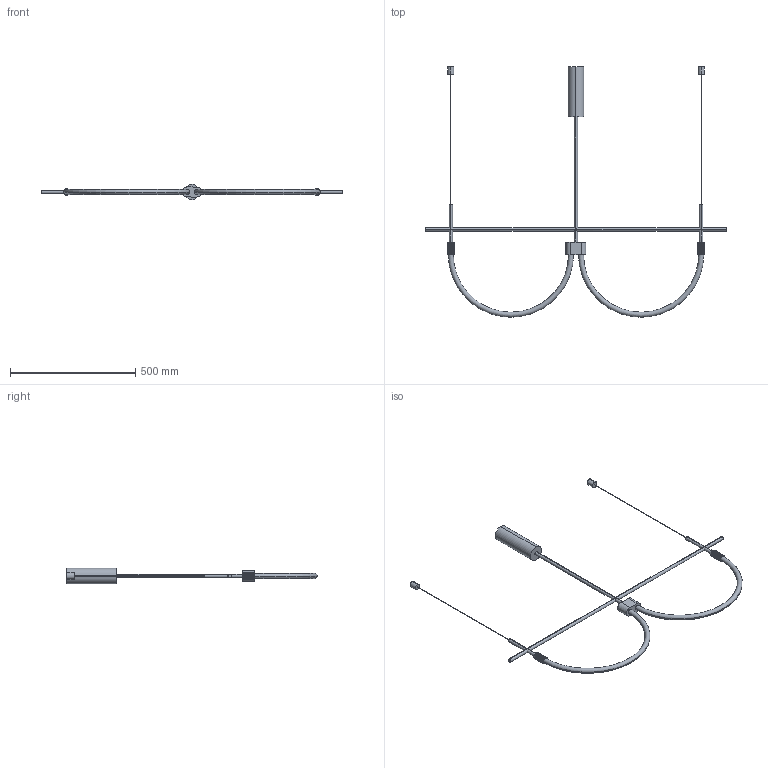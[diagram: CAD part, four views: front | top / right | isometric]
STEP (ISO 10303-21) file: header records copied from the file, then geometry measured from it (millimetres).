
FILE_DESCRIPTION (( 'STEP AP214' ), '1' );
FILE_NAME ('CRAM_C_1329_2.STEP', '2024-09-18T07:16:41', ( '' ), ( '' ), 'SwSTEP 2.0', 'SolidWorks 2018', '' );
FILE_SCHEMA (( 'AUTOMOTIVE_DESIGN' ));
Length unit declared in the file: millimetre
Products named in the file (1): CRAM_C_1329_2
Bounding box: 1200 x 1000 x 62 mm (x, y, z)
Volume: 1600746.4 mm3; surface area: 274794.6 mm2
Topology: 10 solids, 10 shells, 262 faces, 701 edges, 464 vertices
Faces by surface type: plane 179, cylinder 79, torus 4
Entity records: 8262 total; most frequent: CARTESIAN_POINT 1440, ORIENTED_EDGE 1402, DIRECTION 1385, EDGE_CURVE 701, LINE 535, VECTOR 535, VERTEX_POINT 464, AXIS2_PLACEMENT_3D 425
